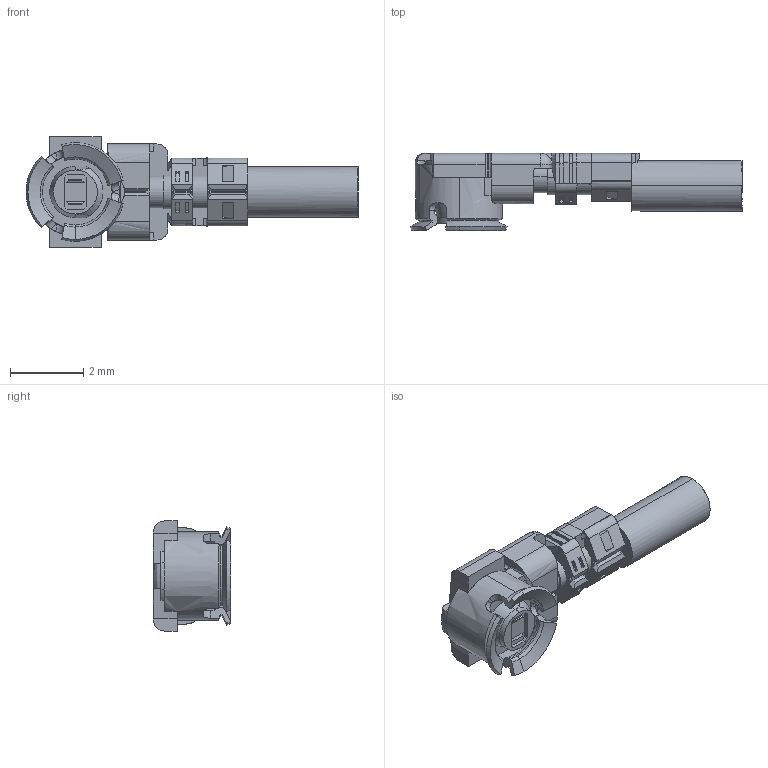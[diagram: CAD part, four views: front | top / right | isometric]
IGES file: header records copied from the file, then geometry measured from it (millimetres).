
Start section: SolidWorks IGES file using analytic representation for surfaces
Global section: file name: C:\3dwork\imaji\00.Web model check\00. New 3D\MHF I\20351-1xxR-37C PLUG R7 IGES ALL.IGS; native system: SolidWorks 2017; preprocessor: SolidWorks 2017; author: ipxcad-013; date: 180705.153815; units: millimetre
Bounding box: 9.04 x 2.1 x 3 mm (x, y, z)
Surface area: 80.3 mm2 (no closed solid volume)
Topology: 0 solids, 0 shells, 374 faces, 2637 edges, 2633 vertices
Faces by surface type: bspline 271, revolution 103
